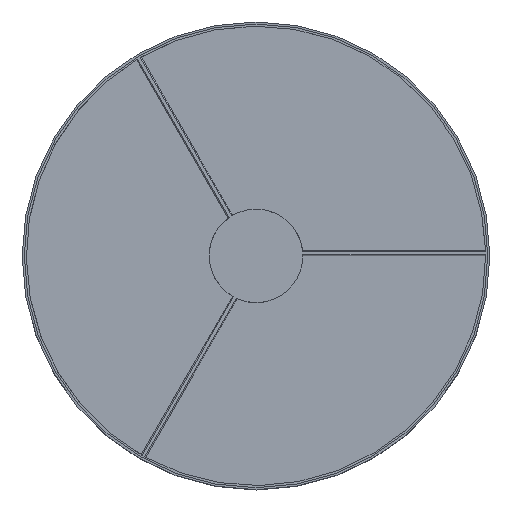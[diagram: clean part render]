
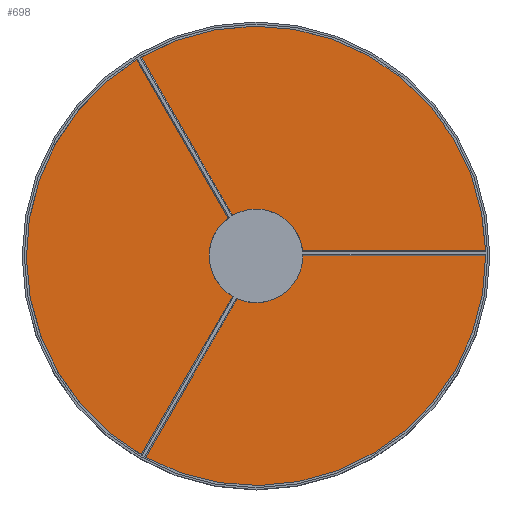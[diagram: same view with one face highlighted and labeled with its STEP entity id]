
A CAD part, top view. The second image highlights one B-rep face of the part: STEP entity #698.
In plain terms, the highlighted planar face has unit normal (0, 0, 1).
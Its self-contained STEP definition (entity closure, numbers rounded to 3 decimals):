
#196=FACE_OUTER_BOUND('',#237,.T.);
#237=EDGE_LOOP('',(#488));
#293=CIRCLE('',#749,223.);
#322=VERTEX_POINT('',#1007);
#391=EDGE_CURVE('',#322,#322,#293,.T.);
#488=ORIENTED_EDGE('',*,*,#391,.F.);
#682=PLANE('',#748);
#698=ADVANCED_FACE('',(#196),#682,.T.);
#748=AXIS2_PLACEMENT_3D('',#1006,#820,#821);
#749=AXIS2_PLACEMENT_3D('',#1008,#822,#823);
#820=DIRECTION('center_axis',(0.,0.,1.));
#821=DIRECTION('ref_axis',(1.,0.,0.));
#822=DIRECTION('center_axis',(0.,0.,-1.));
#823=DIRECTION('ref_axis',(-1.,0.,0.));
#1006=CARTESIAN_POINT('Origin',(0.,0.,
12.));
#1007=CARTESIAN_POINT('',(223.,0.,12.));
#1008=CARTESIAN_POINT('Origin',(0.,0.,12.));
